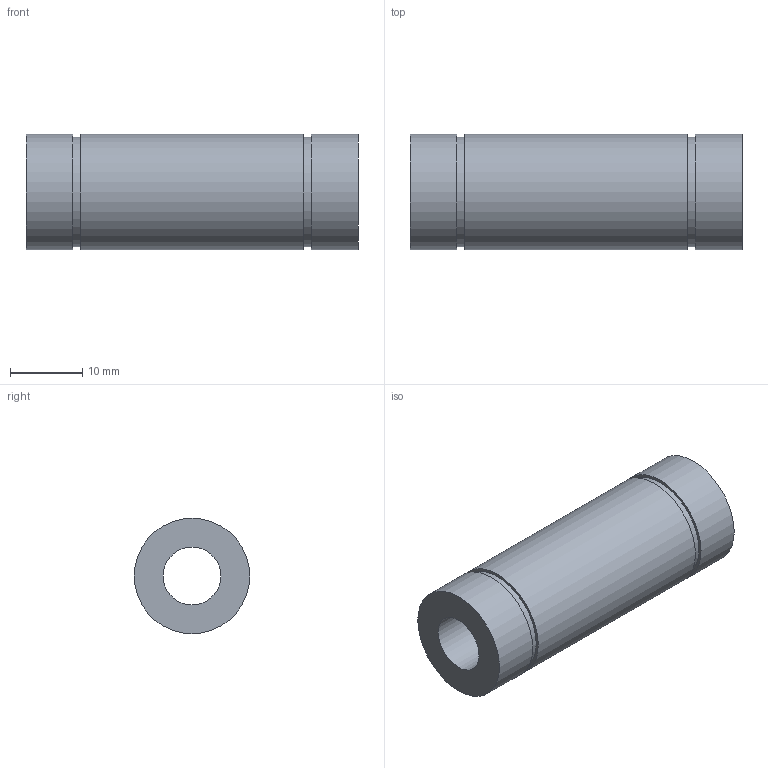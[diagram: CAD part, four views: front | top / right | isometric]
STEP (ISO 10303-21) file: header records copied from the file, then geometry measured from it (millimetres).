
FILE_DESCRIPTION(('FreeCAD Model'),'2;1');
FILE_NAME('Open CASCADE Shape Model','2021-05-03T11:45:06',('Author'),( ''),'Open CASCADE STEP processor 7.5','FreeCAD','Unknown');
FILE_SCHEMA(('AUTOMOTIVE_DESIGN { 1 0 10303 214 1 1 1 1 }'));
Length unit declared in the file: millimetre
Products named in the file (1): _LME8LUU
Bounding box: 46 x 16 x 16 mm (x, y, z)
Volume: 6893.5 mm3; surface area: 3842.8 mm2
Topology: 1 solids, 1 shells, 12 faces, 18 edges, 12 vertices
Faces by surface type: plane 6, cylinder 6
Full cylindrical faces by diameter (mm): 8 x1, 15.2 x2, 16 x3
Entity records: 546 total; most frequent: CARTESIAN_POINT 121, DIRECTION 80, ORIENTED_EDGE 36, PCURVE 36, DEFINITIONAL_REPRESENTATION 36, AXIS2_PLACEMENT_3D 25, LINE 24, VECTOR 24
